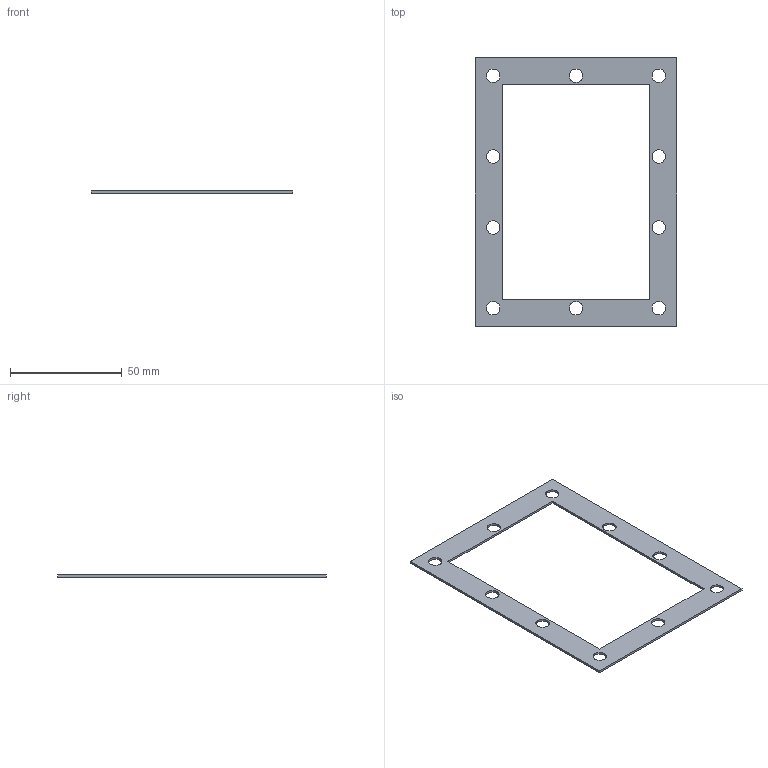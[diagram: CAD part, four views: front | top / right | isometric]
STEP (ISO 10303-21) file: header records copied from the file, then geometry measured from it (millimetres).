
FILE_DESCRIPTION(/* description */ (''),/* implementation_level */ '2;1');
FILE_NAME(/* name */ 'G:\YandexDisk\Работа\Inventor\Универ\ОАП\Лабораторные работы\ЛР6 Создание сборок\Редуктор\stp\Прокладка 7.stp',/* time_stamp */ '2023-11-17T06:36:54+03:00',/* author */ ('34740'),/* organization */ (''),/* preprocessor_version */ 'ST-DEVELOPER v18.1',/* originating_system */ 'Autodesk Inventor 2022',/* authorisation */ '');
FILE_SCHEMA (('AUTOMOTIVE_DESIGN { 1 0 10303 214 3 1 1 }'));
Length unit declared in the file: millimetre
Products named in the file (1): Прокладка 7
Bounding box: 90 x 120 x 1 mm (x, y, z)
Volume: 4181.3 mm3; surface area: 9295 mm2
Topology: 1 solids, 1 shells, 20 faces, 54 edges, 36 vertices
Faces by surface type: plane 10, cylinder 10
Full cylindrical faces by diameter (mm): 6 x10
Entity records: 723 total; most frequent: DIRECTION 116, CARTESIAN_POINT 111, ORIENTED_EDGE 108, EDGE_CURVE 54, EDGE_LOOP 42, AXIS2_PLACEMENT_3D 41, VERTEX_POINT 36, LINE 34
